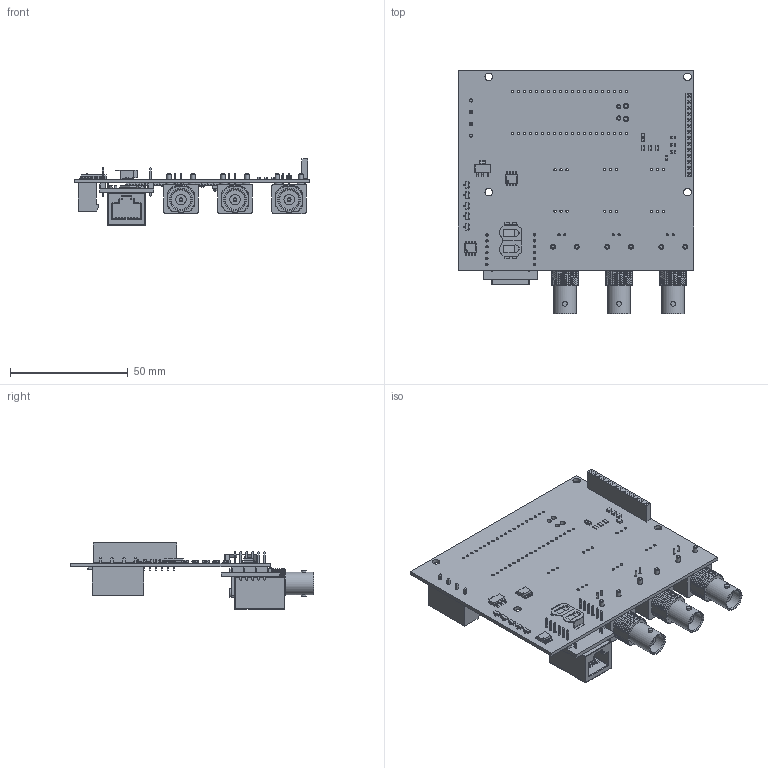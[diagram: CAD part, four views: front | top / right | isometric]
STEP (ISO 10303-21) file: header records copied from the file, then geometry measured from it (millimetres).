
FILE_DESCRIPTION(('KiCad electronic assembly'),'2;1');
FILE_NAME('tank1c.step','2026-07-05T19:45:36',('Pcbnew'),('Kicad'), 'Open CASCADE STEP processor 7.5','KiCad to STEP converter','Unknown' );
FILE_SCHEMA(('AUTOMOTIVE_DESIGN { 1 0 10303 214 1 1 1 1 }'));
Length unit declared in the file: millimetre
Products named in the file (18): tank1c 1; SOT-23; C_0805_2012Metric; SOT-223; FC-135R_L3.2-W1.5; BatteryHolder_LINX_BAT-HLD-012-SMT; R_0805_2012Metric; SOIC-8_3.9x4.9mm_P1.27mm; PinSocket_1x14_P2.54mm_Vertical; PhoenixContact_MSTBVA_2,5_4-G_1x04_P5.00mm_Vertical; BNC_Amphenol_B6252HB-NPP3G-50_Horizontal; w5500-lite; COMPOUND; RaspberryPi_Pico; RaspberryPi_Pico_Module_KiCad; tank1_PCB
Assembly tree (29 placements, depth 3):
  tank1c 1
    SOT-23  x5
    C_0805_2012Metric  x4
    SOT-223
    FC-135R_L3.2-W1.5
    BatteryHolder_LINX_BAT-HLD-012-SMT
    R_0805_2012Metric  x3
    SOIC-8_3.9x4.9mm_P1.27mm  x2
    PinSocket_1x14_P2.54mm_Vertical
    PhoenixContact_MSTBVA_2,5_4-G_1x04_P5.00mm_Vertical
    BNC_Amphenol_B6252HB-NPP3G-50_Horizontal  x3
    w5500-lite
      COMPOUND
      COMPOUND
      COMPOUND
    RaspberryPi_Pico
      RaspberryPi_Pico_Module_KiCad
    tank1_PCB
Bounding box: 100 x 103.48 x 28.12 mm (x, y, z)
Volume: 29581.3 mm3; surface area: 40136.5 mm2
Topology: 108 solids, 244 shells, 4938 faces, 13197 edges, 8792 vertices
Faces by surface type: plane 3068, bspline 1184, cylinder 636, cone 34, torus 16
Full cylindrical faces by diameter (mm): 0.67 x12, 0.89 x6, 1 x127, 1.3 x3, 1.4 x4, 1.6 x3, 1.8 x6, 1.85 x2, 2 x12, 2.01 x6, 2.1 x4, 2.2 x2, 2.5 x6, 3.2 x13, 3.5 x3, 3.8 x3, 4.4 x3, 8.25 x3, 9.65 x3
Entity records: 136047 total; most frequent: CARTESIAN_POINT 51178, ORIENTED_EDGE 20316, DIRECTION 12263, EDGE_CURVE 10479, VERTEX_POINT 7048, B_SPLINE_CURVE_WITH_KNOTS 4442, FACE_BOUND 4371, EDGE_LOOP 4369
